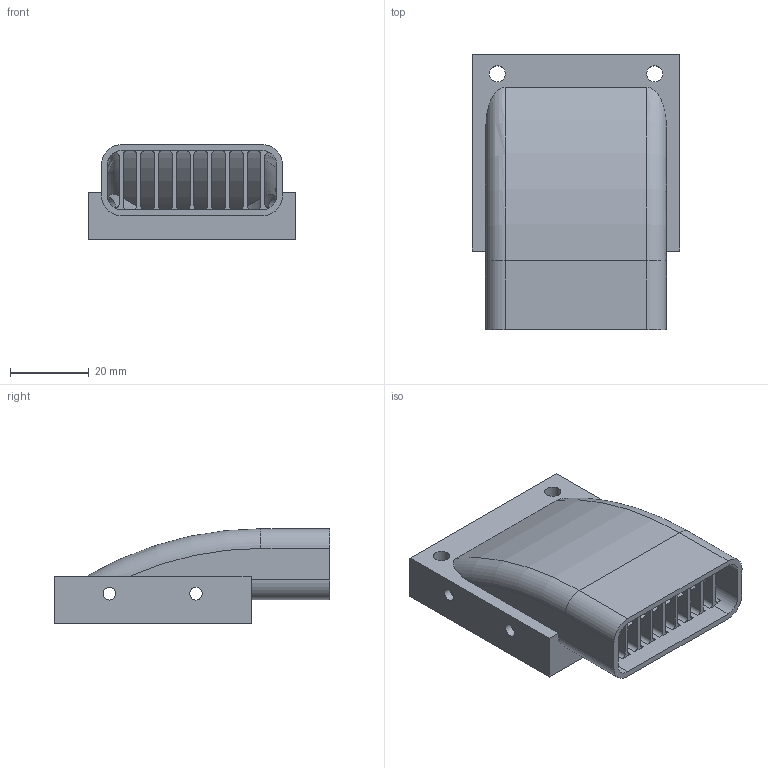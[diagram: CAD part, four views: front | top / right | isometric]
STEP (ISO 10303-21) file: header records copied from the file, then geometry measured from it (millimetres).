
FILE_DESCRIPTION(/* description */ (''),/* implementation_level */ '2;1');
FILE_NAME(/* name */ '1-10-1 Fan duct.step',/* time_stamp */ '2025-05-10T21:33:58+02:00',/* author */ (''),/* organization */ (''),/* preprocessor_version */ 'ST-DEVELOPER v20.1',/* originating_system */ 'Autodesk Translation Framework v14.4.0.0',/* authorisation */ '');
FILE_SCHEMA (('AUTOMOTIVE_DESIGN { 1 0 10303 214 3 1 1 }'));
Length unit declared in the file: millimetre
Products named in the file (1): 1-10-1 Fan duct
Bounding box: 52.61 x 70 x 24 mm (x, y, z)
Volume: 16698.7 mm3; surface area: 17210.9 mm2
Topology: 1 solids, 1 shells, 131 faces, 395 edges, 263 vertices
Faces by surface type: plane 67, cylinder 58, torus 6
Full cylindrical faces by diameter (mm): 3.2 x4, 4.1 x3, 6.5 x4, 48 x1
Entity records: 4803 total; most frequent: CARTESIAN_POINT 1067, ORIENTED_EDGE 790, DIRECTION 765, EDGE_CURVE 395, VERTEX_POINT 263, AXIS2_PLACEMENT_3D 263, LINE 239, VECTOR 239
